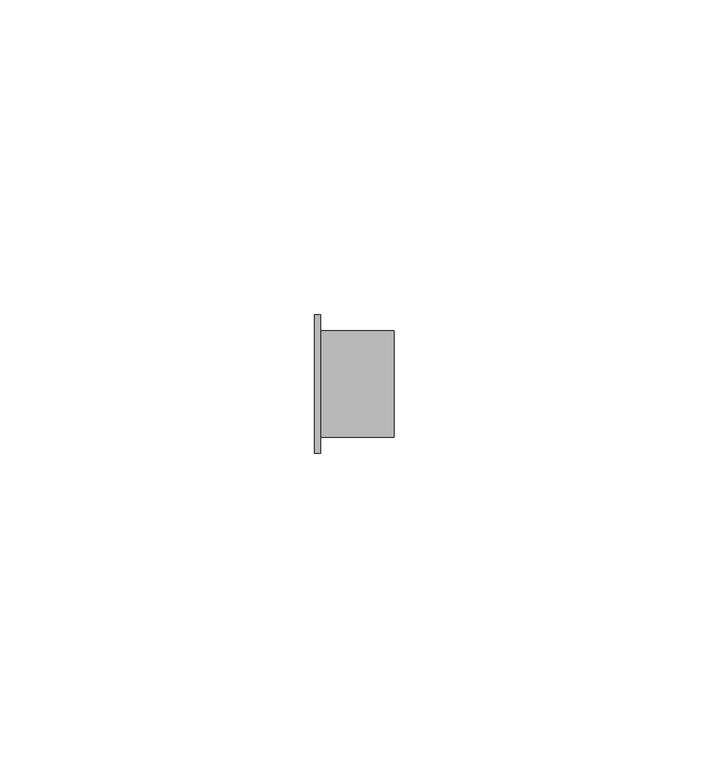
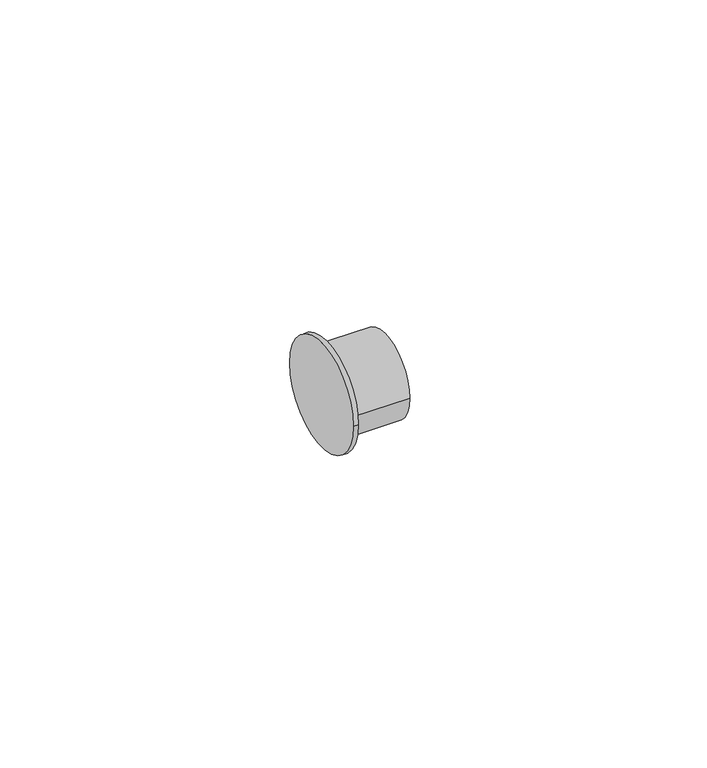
"""IFC4 building model written with IfcOpenShell, lengths in millimetres: pipe fitting geometry, Bucha de redução reta - Soldada - CU : Padrão."""

from ifc_helpers import new_model, si_unit, frame, origin, place, context, project, spatial, circle_curve, source, transform, mapped, element, save
from ifc_brep_helpers import plane_surface, cylinder_surface, advanced_brep


def pipe_fitting_bc7f25b2(model_context):
    return source(origin(), model_context, "Body", "AdvancedBrep", [
        advanced_brep(
        [(0.0, 11.01, 0.0), (0.0, -11.01, 0.0), (1.0, 11.01, 0.0), (1.0, -11.01, 0.0), (1.0, 8.4937, 0.0), (1.0, -8.4937, 0.0), (12.6589, 8.4937, 0.0), (12.6589, -8.4937, 0.0)],
        [
            (0, 1, circle_curve(frame((0.0, 0.0, 0.0), z_axis=(-1.0, 0.0, 0.0), x_axis=(0.0, -1.0, 0.0)), 11.01)),
            (1, 0, circle_curve(frame((0.0, 0.0, 0.0), z_axis=(-1.0, 0.0, 0.0), x_axis=(0.0, -1.0, 0.0)), 11.01)),
            (2, 3, circle_curve(frame((1.0, 0.0, 0.0), z_axis=(1.0, 0.0, 0.0), x_axis=(0.0, -1.0, 0.0)), 11.01)),
            (3, 2, circle_curve(frame((1.0, 0.0, 0.0), z_axis=(1.0, 0.0, 0.0), x_axis=(0.0, -1.0, 0.0)), 11.01)),
            (4, 5, circle_curve(frame((1.0, 0.0, 0.0), z_axis=(-1.0, 0.0, 0.0), x_axis=(0.0, -1.0, 0.0)), 8.4937)),
            (5, 4, circle_curve(frame((1.0, 0.0, 0.0), z_axis=(-1.0, 0.0, 0.0), x_axis=(0.0, -1.0, 0.0)), 8.4937)),
            (1, 3),
            (2, 0),
            (6, 7, circle_curve(frame((12.6589, 0.0, 0.0), z_axis=(1.0, 0.0, 0.0), x_axis=(0.0, -1.0, 0.0)), 8.4937)),
            (7, 6, circle_curve(frame((12.6589, 0.0, 0.0), z_axis=(1.0, 0.0, 0.0), x_axis=(0.0, -1.0, 0.0)), 8.4937)),
            (6, 4),
            (5, 7),
        ],
        [
            plane_surface(frame((0.0, 0.0, 0.0), z_axis=(-1.0, 0.0, 0.0), x_axis=(0.0, 0.0, 1.0))),
            plane_surface(frame((1.0, 0.0, 0.0), z_axis=(1.0, 0.0, 0.0), x_axis=(0.0, 0.0, 1.0))),
            cylinder_surface(frame((0.0, 0.0, 0.0), z_axis=(-1.0, 0.0, 0.0), x_axis=(0.0, -1.0, 0.0)), 11.01),
            plane_surface(frame((12.6589, 0.0, 0.0), z_axis=(1.0, 0.0, 0.0), x_axis=(0.0, 0.0, 1.0))),
            cylinder_surface(frame((1.0, 0.0, 0.0), z_axis=(-1.0, 0.0, 0.0), x_axis=(0.0, -1.0, 0.0)), 8.4937),
        ],
        [
            (0, [[1, 2]]),
            (1, [[3, 4], [5, 6]]),
            (2, [[7, -3, 8, -2]]),
            (2, [[-8, -4, -7, -1]]),
            (3, [[9, 10]]),
            (4, [[11, -6, 12, -9]]),
            (4, [[-12, -5, -11, -10]]),
        ],
    ),
    ])


if __name__ == "__main__":
    model = new_model("IFC4")
    model_context = context("Model", 3, world=origin())
    ifc_project = project(units=[si_unit("LENGTHUNIT", "METRE", prefix="MILLI")], contexts=[model_context])
    site = spatial("IfcSite", under=ifc_project)
    building = spatial("IfcBuilding", under=site)
    placement = place(None, origin())
    pipe_fitting_shape = pipe_fitting_bc7f25b2(model_context)
    element("IfcPipeFitting", 1, ObjectType="Bucha de redução reta - Soldada - CU : Padrão", at=placement, inside=building, context=model_context, shape_type="MappedRepresentation", body=[
        mapped(pipe_fitting_shape, transform((0.0, 0.0, 0.0), x_axis=(1.0, 0.0, 0.0), y_axis=(0.0, 1.0, 0.0), z_axis=(0.0, 0.0, 1.0))),
    ])
    save(model, "model.ifc")
